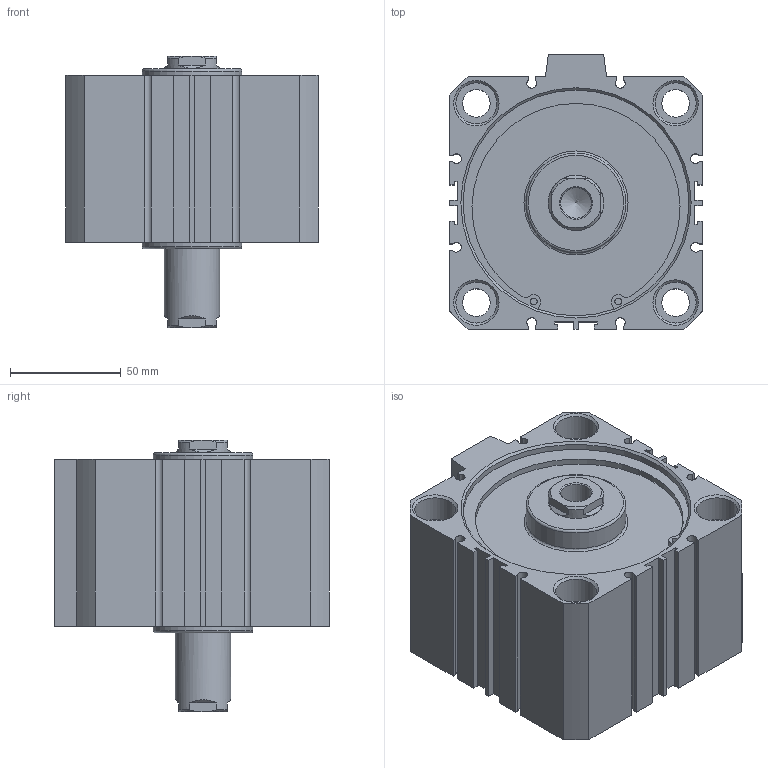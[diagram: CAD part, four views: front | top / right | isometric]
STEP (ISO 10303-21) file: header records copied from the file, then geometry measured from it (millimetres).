
FILE_DESCRIPTION((''),'2;1');
FILE_NAME('I:\3D電子目錄\氣缸\JDD\JDD\JDD100\JDD100x30.stp','2007-02-08T11:55:57',('662F206'),(''),'Autodesk Inventor 10','Autodesk Inventor 10','');
FILE_SCHEMA(('AUTOMOTIVE_DESIGN { 1 0 10303 214 1 1 1 1 }'));
Length unit declared in the file: millimetre
Products named in the file (3): JDD100; R 形環 100
Assembly tree (3 placements, depth 2):
  JDD100
    JDD100
    R 形環 100  x2
Bounding box: 114 x 124 x 122.7 mm (x, y, z)
Volume: 834442 mm3; surface area: 109874.8 mm2
Topology: 3 solids, 3 shells, 200 faces, 502 edges, 330 vertices
Faces by surface type: plane 116, cylinder 52, cone 24, bspline 6, torus 2
Full cylindrical faces by diameter (mm): 3.1 x4, 3.5 x2, 12.5 x4, 18.5 x8, 25 x2, 45 x2, 102 x4, 106 x2
Entity records: 5511 total; most frequent: CARTESIAN_POINT 1094, DIRECTION 908, ORIENTED_EDGE 824, EDGE_CURVE 412, AXIS2_PLACEMENT_3D 324, VERTEX_POINT 300, EDGE_LOOP 272, VECTOR 260
